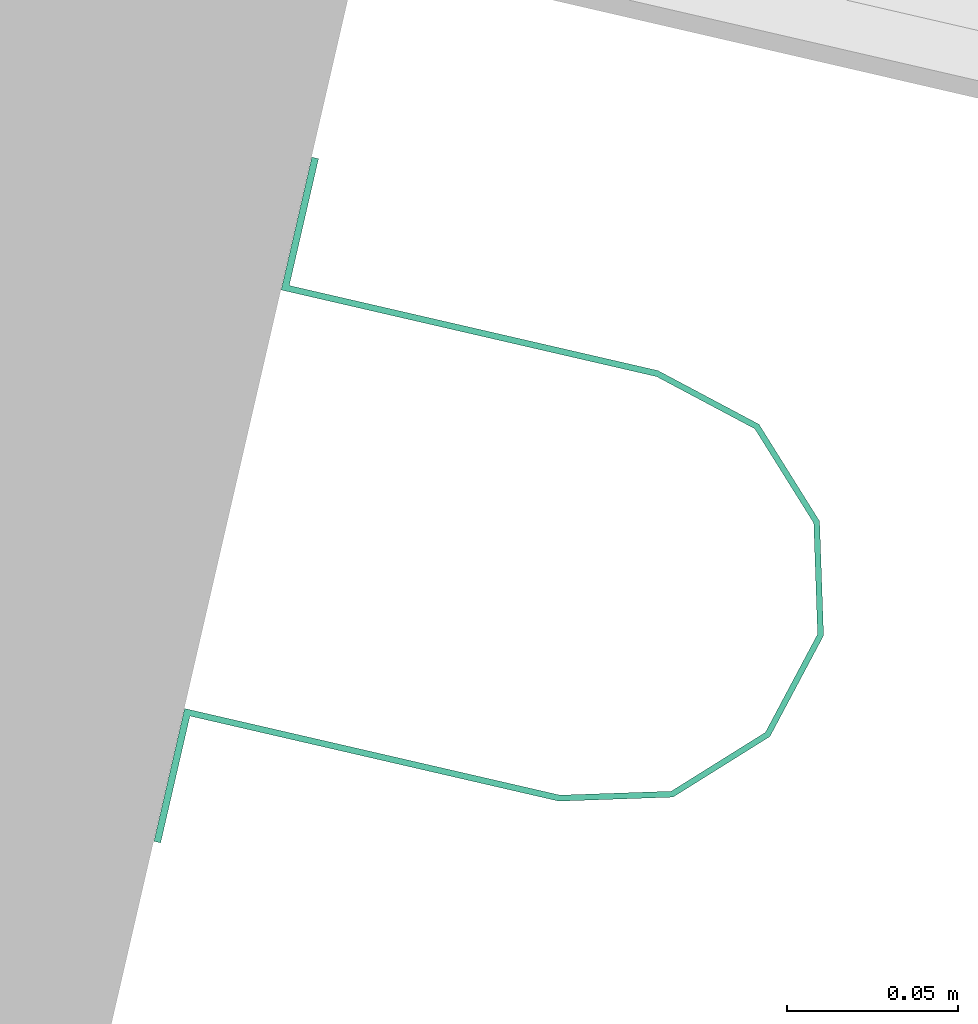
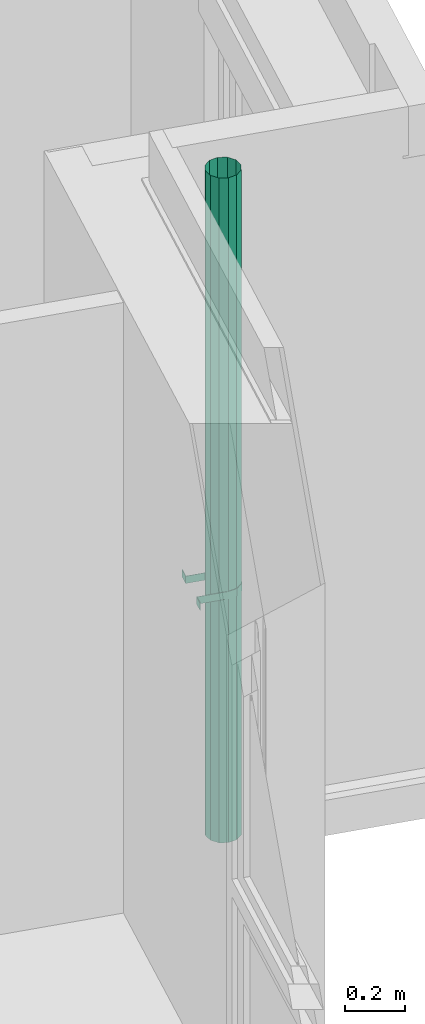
# One storey, part 82 of 91: 1 flow terminal.
"""IFC2X3 building model written with IfcOpenShell, lengths in metres."""

from ifc_helpers import new_model, entity, si_unit, converted_unit, derived_unit, money_unit, direction, frame, origin_with_axes, place, context, subcontext, project, spatial, open_shell, faceted_brep, surface_model, source, transform, mapped, type_object, element, save


model = new_model("IFC2X3")

# Units and contexts
model_context = context("Model", 3, precision=1e-05, world=origin_with_axes(), true_north=direction((0.0, 1.0)))
body_context = subcontext(model_context, "Body", "Model", "MODEL_VIEW")
ifc_project = project(units=[si_unit("LENGTHUNIT", "METRE"), si_unit("AREAUNIT", "SQUARE_METRE"), si_unit("VOLUMEUNIT", "CUBIC_METRE"), converted_unit("PLANEANGLEUNIT", "DEGREE", entity("IfcPlaneAngleMeasure", 0.0174532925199), si_unit("PLANEANGLEUNIT", "RADIAN"), dimensions=[0, 0, 0, 0, 0, 0, 0]), si_unit("SOLIDANGLEUNIT", "STERADIAN"), money_unit("EUR"), converted_unit("TIMEUNIT", "Year", entity("IfcTimeMeasure", 31556926.0), si_unit("TIMEUNIT", "SECOND"), dimensions=[0, 0, 1, 0, 0, 0, 0]), si_unit("MASSUNIT", "GRAM", prefix="KILO"), si_unit("THERMODYNAMICTEMPERATUREUNIT", "DEGREE_CELSIUS"), si_unit("LUMINOUSINTENSITYUNIT", "LUMEN"), si_unit("ENERGYUNIT", "JOULE", prefix="MEGA"), derived_unit("THERMALCONDUCTANCEUNIT", [(si_unit("POWERUNIT", "WATT"), 1), (si_unit("LENGTHUNIT", "METRE"), -1), (si_unit("THERMODYNAMICTEMPERATUREUNIT", "KELVIN"), -1)]), derived_unit("SPECIFICHEATCAPACITYUNIT", [(si_unit("ENERGYUNIT", "JOULE"), 1), (si_unit("MASSUNIT", "GRAM", prefix="KILO"), -1), (si_unit("THERMODYNAMICTEMPERATUREUNIT", "KELVIN"), -1)]), derived_unit("MASSDENSITYUNIT", [(si_unit("MASSUNIT", "GRAM", prefix="KILO"), 1), (si_unit("VOLUMEUNIT", "CUBIC_METRE"), -1)])], contexts=[model_context])

# Site, building, storey
site_placement = place(None, origin_with_axes())
site = spatial("IfcSite", under=ifc_project, at=site_placement, Name="Site", CompositionType="ELEMENT")
building_placement = place(site_placement, origin_with_axes())
building = spatial("IfcBuilding", under=site, at=building_placement, Name="Bâtiment", CompositionType="ELEMENT")
storey_placement = place(building_placement, frame((0.0, 0.0, 5.44), z_axis=(0.0, 0.0, 1.0), x_axis=(1.0, 0.0, 0.0)))
storey = spatial("IfcBuildingStorey", under=building, at=storey_placement, Name="R+2", CompositionType="ELEMENT", Elevation=5.44)

# Flow terminal
waste_terminal_type = type_object("IfcWasteTerminalType", Name="Tuyau descente 23", PredefinedType="GULLYTRAP")
shared_shape = source(origin_with_axes(), body_context, "Body", "SurfaceModel", [
    surface_model("IfcShellBasedSurfaceModel", [(0.0625, -0.0500000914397, 2.7222918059), (0.0541265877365, -0.0812500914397, 2.7222918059), (0.0541265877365, -0.0812500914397, 0.0), (0.0625, -0.0500000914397, 0.0), (0.03125, -0.104126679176, 2.7222918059), (0.03125, -0.104126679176, 0.0), (0.0541265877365, -0.0187500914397, 2.7222918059), (0.0541265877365, -0.0187500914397, 0.0), (0.0, -0.11250009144, 2.7222918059), (0.0, -0.11250009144, 0.0), (0.03125, 0.0041264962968, 2.7222918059), (0.03125, 0.0041264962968, 0.0), (-0.03125, -0.104126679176, 2.7222918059), (-0.03125, -0.104126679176, 0.0), (0.0, 0.0124999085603, 2.7222918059), (0.0, 0.0124999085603, 0.0), (-0.0541265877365, -0.0812500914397, 2.7222918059), (-0.0541265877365, -0.0812500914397, 0.0), (-0.03125, 0.0041264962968, 2.7222918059), (-0.03125, 0.0041264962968, 0.0), (-0.0625, -0.0500000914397, 2.7222918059), (-0.0625, -0.0500000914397, 0.0), (-0.0541265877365, -0.0187500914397, 2.7222918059), (-0.0541265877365, -0.0187500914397, 0.0)], [open_shell([[[0, 1, 2, 3]], [[1, 4, 5, 2]], [[6, 0, 3, 7]], [[4, 8, 9, 5]], [[10, 6, 7, 11]], [[8, 12, 13, 9]], [[14, 10, 11, 15]], [[12, 16, 17, 13]], [[18, 14, 15, 19]], [[16, 20, 21, 17]], [[22, 18, 19, 23]], [[20, 22, 23, 21]]])]),
    faceted_brep([(-0.1025, 0.0604, 1.0), (-0.0645, 0.0604, 1.0), (-0.0645, 0.0604, 1.03), (-0.1025, 0.0604, 1.03), (-0.1025, 0.0624, 1.0), (-0.0627, 0.0624, 1.0), (-0.0627, -0.0501000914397, 1.0), (-0.0542997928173, -0.0814500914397, 1.0), (-0.03135, -0.104399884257, 1.0), (0.0, -0.11280009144, 1.0), (0.03135, -0.104399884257, 1.0), (0.0542997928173, -0.0814500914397, 1.0), (0.0627, -0.0501000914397, 1.0), (0.0627, 0.0624, 1.0), (0.1025, 0.0624, 1.0), (0.1025, 0.0604, 1.0), (0.0645, 0.0604, 1.0), (0.0645, -0.0501000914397, 1.0), (0.0558586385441, -0.0823500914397, 1.0), (0.03225, -0.105958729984, 1.0), (0.0, -0.11460009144, 1.0), (-0.03225, -0.105958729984, 1.0), (-0.0558586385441, -0.0823500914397, 1.0), (-0.0645, -0.0501000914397, 1.0), (-0.0645, -0.0501000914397, 1.03), (-0.0558586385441, -0.0823500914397, 1.03), (-0.03225, -0.105958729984, 1.03), (0.0, -0.11460009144, 1.03), (0.03225, -0.105958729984, 1.03), (0.0558586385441, -0.0823500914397, 1.03), (0.0645, -0.0501000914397, 1.03), (0.0645, 0.0604, 1.03), (0.1025, 0.0604, 1.03), (0.1025, 0.0624, 1.03), (0.0627, 0.0624, 1.03), (0.0627, -0.0501000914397, 1.03), (0.0542997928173, -0.0814500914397, 1.03), (0.03135, -0.104399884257, 1.03), (0.0, -0.11280009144, 1.03), (-0.03135, -0.104399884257, 1.03), (-0.0542997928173, -0.0814500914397, 1.03), (-0.0627, -0.0501000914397, 1.03), (-0.0627, 0.0624, 1.03), (-0.1025, 0.0624, 1.03)], [[[0, 1, 2, 3]], [[0, 4, 5, 6, 7, 8, 9, 10, 11, 12, 13, 14, 15, 16, 17, 18, 19, 20, 21, 22, 23, 1]], [[1, 23, 24, 2]], [[3, 2, 24, 25, 26, 27, 28, 29, 30, 31, 32, 33, 34, 35, 36, 37, 38, 39, 40, 41, 42, 43]], [[4, 0, 3, 43]], [[5, 4, 43, 42]], [[6, 5, 42, 41]], [[7, 6, 41, 40]], [[8, 7, 40, 39]], [[9, 8, 39, 38]], [[10, 9, 38, 37]], [[11, 10, 37, 36]], [[12, 11, 36, 35]], [[13, 12, 35, 34]], [[14, 13, 34, 33]], [[15, 14, 33, 32]], [[16, 15, 32, 31]], [[17, 16, 31, 30]], [[18, 17, 30, 29]], [[19, 18, 29, 28]], [[20, 19, 28, 27]], [[21, 20, 27, 26]], [[22, 21, 26, 25]], [[23, 22, 25, 24]]]),
])
flow_terminal_placement = place(storey_placement, frame((-1.11037446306, 6.39538001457, 0.0), z_axis=(0.0, 0.0, 1.0), x_axis=(0.224876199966, 0.974387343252, 0.0)))
element("IfcFlowTerminal", 1, at=flow_terminal_placement, inside=storey, type_object=waste_terminal_type, Name="MOB-006", context=body_context, shape_type="MappedRepresentation", body=[
    mapped(shared_shape, transform((0.0, 0.0, 0.0))),
])

save(model, "model.ifc")
